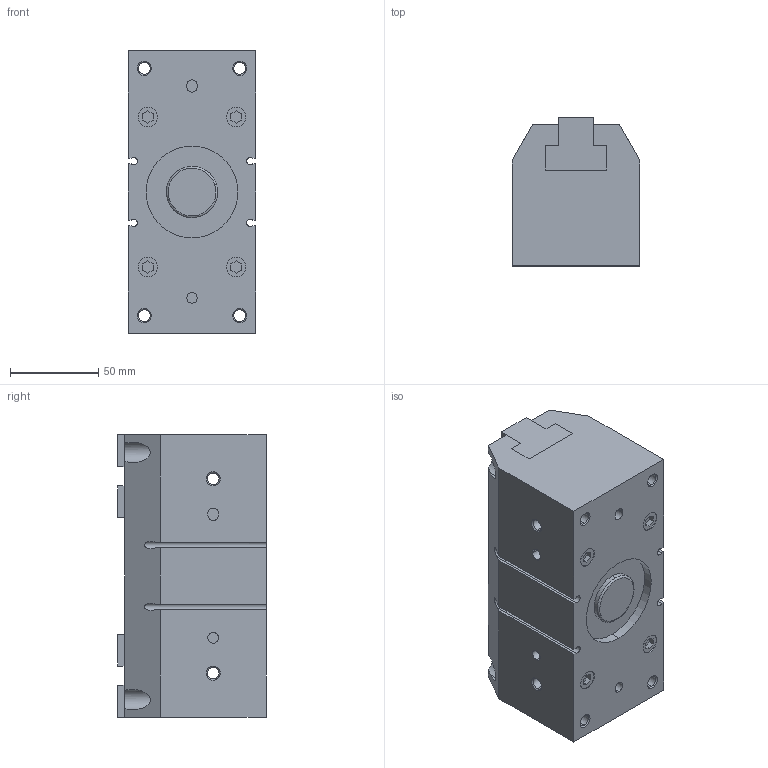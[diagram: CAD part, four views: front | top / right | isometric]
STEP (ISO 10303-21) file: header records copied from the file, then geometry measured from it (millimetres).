
FILE_DESCRIPTION (( 'STEP AP203' ), '1' );
FILE_NAME ('SDW63_0_.STEP', '2022-10-17T02:00:44', ( '' ), ( '' ), 'SwSTEP 2.0', 'SolidWorks 2018', '' );
FILE_SCHEMA (( 'CONFIG_CONTROL_DESIGN' ));
Length unit declared in the file: millimetre
Products named in the file (3): SDW63-01; SDW63-06; SDW63_0_
Assembly tree (3 placements, depth 2):
  SDW63_0_
    SDW63-01  x2
    SDW63-06
Bounding box: 72 x 84 x 160 mm (x, y, z)
Volume: 851158.7 mm3; surface area: 96051.4 mm2
Topology: 3 solids, 3 shells, 250 faces, 612 edges, 400 vertices
Faces by surface type: plane 152, cylinder 72, cone 24, torus 2
Entity records: 7025 total; most frequent: CARTESIAN_POINT 1276, DIRECTION 1140, ORIENTED_EDGE 1100, EDGE_CURVE 550, VECTOR 384, LINE 384, AXIS2_PLACEMENT_3D 378, VERTEX_POINT 360
